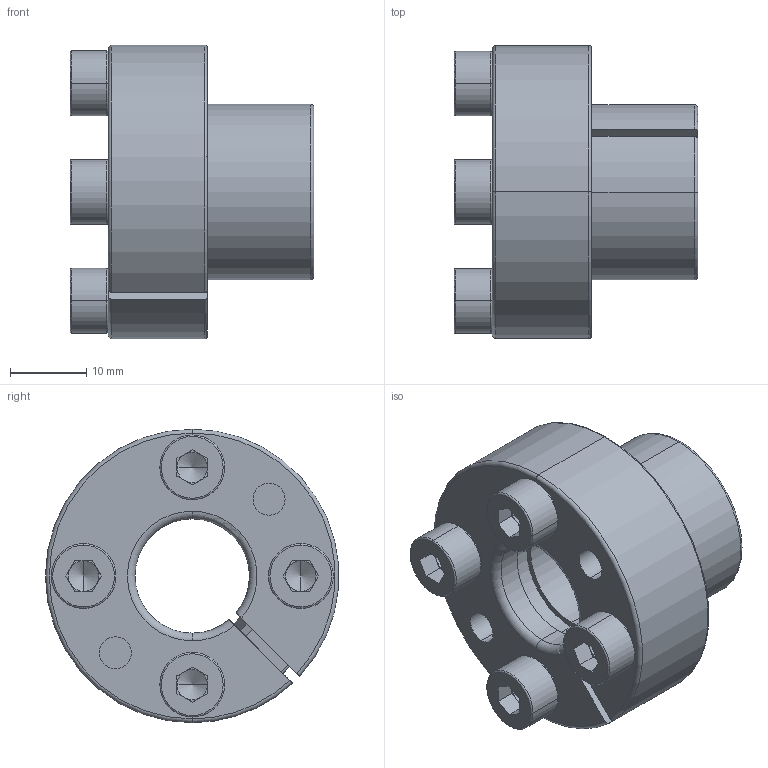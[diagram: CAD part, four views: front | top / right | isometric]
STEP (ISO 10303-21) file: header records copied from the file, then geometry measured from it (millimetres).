
FILE_DESCRIPTION (( 'STEP AP203' ), '1' );
FILE_NAME ('MLR15-23 SAMPLE.STEP', '2013-01-28T05:30:27', ( '' ), ( '' ), 'SwSTEP 2.0', 'SolidWorks 2012', '' );
FILE_SCHEMA (( 'CONFIG_CONTROL_DESIGN' ));
Length unit declared in the file: millimetre
Products named in the file (1): MLR15-23 SAMPLE
Bounding box: 32 x 38.44 x 38.5 mm (x, y, z)
Volume: 14738.6 mm3; surface area: 10660.1 mm2
Topology: 1 solids, 1 shells, 223 faces, 531 edges, 316 vertices
Faces by surface type: plane 73, cylinder 65, torus 60, cone 25
Entity records: 6592 total; most frequent: CARTESIAN_POINT 1224, DIRECTION 1218, ORIENTED_EDGE 1046, EDGE_CURVE 523, AXIS2_PLACEMENT_3D 505, VERTEX_POINT 316, CIRCLE 281, EDGE_LOOP 251
